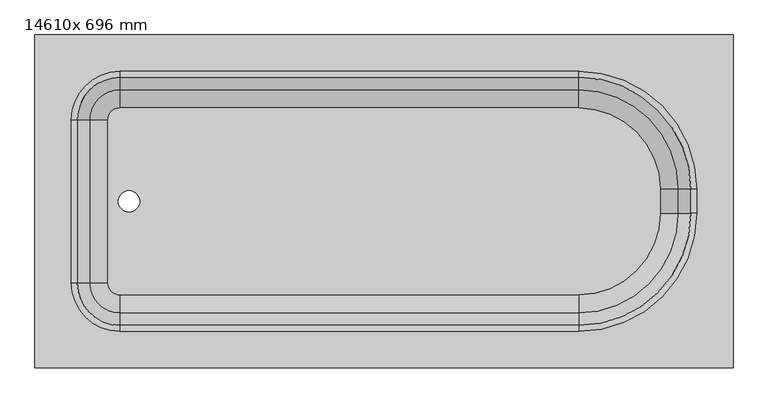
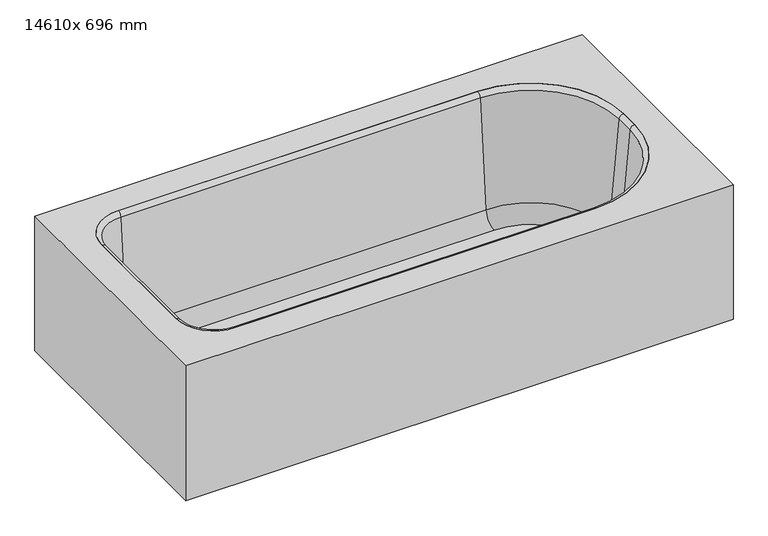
"""IFC4 building model written with IfcOpenShell, lengths in millimetres: flow terminal geometry, Bañera-Rectangular-3D : 14610x 696 mm."""

from ifc_helpers import new_model, si_unit, point, frame, frame_2d, origin, place, context, project, spatial, polyline, circle_curve, ellipse_curve, trimmed, segment, composite_curve, outline, extrude, source, transform, mapped, element, save
from ifc_brep_helpers import plane_surface, cylinder_surface, revolved_surface, advanced_brep


def flow_terminal_14610x_696_mm_010d118e(model_context):
    return source(origin(), model_context, "Body", "SolidModel", [
        advanced_brep(
        [(350.3970313, 746.6, 380.0), (-1110.6029687, 746.6, 380.0), (-1110.6029687, 50.0, 380.0), (350.3970313, 50.0, 380.0), (-932.8029687, 670.4, 380.0), (27.4970313, 670.4, 380.0), (274.1970313, 423.7, 380.0), (274.1970313, 372.9, 380.0), (27.4970313, 126.2, 380.0), (-932.8029687, 126.2, 380.0), (-1034.4029687, 227.8, 380.0), (-1034.4029687, 568.8, 380.0), (331.3470313, 727.55, 360.95), (331.3470313, 69.05, 360.95), (-1091.5529687, 69.05, 360.95), (-1091.5529687, 727.55, 360.95), (-932.8029687, 670.4, 360.95), (-1034.4029687, 568.8, 360.95), (-1034.4029687, 227.8, 360.95), (-932.8029687, 126.2, 360.95), (27.4970313, 126.2, 360.95), (274.1970313, 372.9, 360.95), (274.1970313, 423.7, 360.95), (27.4970313, 670.4, 360.95), (350.3970313, 746.6, 0.0), (-1110.6029687, 746.6, 0.0), (-1110.6029687, 50.0, 0.0), (350.3970313, 50.0, 0.0), (331.3470313, 727.55, 0.0), (-1091.5529687, 727.55, 0.0), (-1091.5529687, 69.05, 0.0), (331.3470313, 69.05, 0.0)],
        [
            (0, 1),
            (1, 2),
            (2, 3),
            (3, 0),
            (4, 5),
            (5, 6, circle_curve(frame((27.4970313, 423.7, 380.0), z_axis=(0.0, 0.0, -1.0), x_axis=(0.0, 1.0, 0.0)), 246.7)),
            (6, 7),
            (7, 8, circle_curve(frame((27.4970313, 372.9, 380.0), z_axis=(0.0, 0.0, -1.0), x_axis=(0.0, 1.0, 0.0)), 246.7)),
            (8, 9),
            (9, 10, circle_curve(frame((-932.8029687, 227.8, 380.0), z_axis=(0.0, 0.0, -1.0), x_axis=(0.0, 1.0, 0.0)), 101.6)),
            (10, 11),
            (11, 4, circle_curve(frame((-932.8029687, 568.8, 380.0), z_axis=(0.0, 0.0, -1.0), x_axis=(0.0, 1.0, 0.0)), 101.6)),
            (12, 13),
            (13, 14),
            (14, 15),
            (15, 12),
            (16, 17, circle_curve(frame((-932.8029687, 568.8, 360.95), z_axis=(0.0, 0.0, 1.0), x_axis=(0.0, 1.0, 0.0)), 101.6)),
            (17, 18),
            (18, 19, circle_curve(frame((-932.8029687, 227.8, 360.95), z_axis=(0.0, 0.0, 1.0), x_axis=(0.0, 1.0, 0.0)), 101.6)),
            (19, 20),
            (20, 21, circle_curve(frame((27.4970313, 372.9, 360.95), z_axis=(0.0, 0.0, 1.0), x_axis=(0.0, 1.0, 0.0)), 246.7)),
            (21, 22),
            (22, 23, circle_curve(frame((27.4970313, 423.7, 360.95), z_axis=(0.0, 0.0, 1.0), x_axis=(0.0, 1.0, 0.0)), 246.7)),
            (23, 16),
            (0, 24),
            (24, 25),
            (25, 1),
            (25, 26),
            (26, 2),
            (26, 27),
            (27, 3),
            (27, 24),
            (4, 16),
            (23, 5),
            (22, 6),
            (21, 7),
            (20, 8),
            (19, 9),
            (18, 10),
            (17, 11),
            (28, 29),
            (29, 30),
            (30, 31),
            (31, 28),
            (31, 13),
            (12, 28),
            (30, 14),
            (29, 15),
        ],
        [
            plane_surface(frame((-1110.6029687, 746.6, 380.0), z_axis=(0.0, 0.0, 1.0), x_axis=(-1.0, 0.0, 0.0))),
            plane_surface(frame((-1110.6029687, 746.6, 360.95), z_axis=(0.0, 0.0, -1.0), x_axis=(1.0, 0.0, 0.0))),
            plane_surface(frame((350.3970313, 746.6, 380.0), z_axis=(0.0, 1.0, 0.0), x_axis=(0.0, 0.0, -1.0))),
            plane_surface(frame((-1110.6029687, 746.6, 380.0), z_axis=(-1.0, 0.0, 0.0), x_axis=(0.0, 0.0, -1.0))),
            plane_surface(frame((-1110.6029687, 50.0, 380.0), z_axis=(0.0, -1.0, 0.0), x_axis=(0.0, 0.0, -1.0))),
            plane_surface(frame((350.3970313, 50.0, 380.0), z_axis=(1.0, 0.0, 0.0), x_axis=(0.0, 0.0, -1.0))),
            plane_surface(frame((-932.8029687, 670.4, 380.0), z_axis=(0.0, -1.0, 0.0), x_axis=(0.0, 0.0, -1.0))),
            revolved_surface(polyline([(27.4970313, 670.4, 360.95), (27.4970313, 670.4, 380.0)]), (27.4970313, 423.7, 380.0), (0.0, 0.0, -1.0)),
            plane_surface(frame((274.1970313, 423.7, 380.0), z_axis=(-1.0, 0.0, 0.0), x_axis=(0.0, 0.0, -1.0))),
            revolved_surface(polyline([(27.4970313, 619.5999999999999, 360.95), (27.4970313, 619.5999999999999, 380.0)]), (27.4970313, 372.9, 380.0), (0.0, 0.0, -1.0)),
            plane_surface(frame((27.4970313, 126.2, 380.0), z_axis=(0.0, 1.0, 0.0), x_axis=(0.0, 0.0, -1.0))),
            revolved_surface(polyline([(-932.8029687, 329.4, 360.95), (-932.8029687, 329.4, 380.0)]), (-932.8029687, 227.8, 380.0), (0.0, 0.0, -1.0)),
            plane_surface(frame((-1034.4029687, 227.8, 380.0), z_axis=(1.0, 0.0, 0.0), x_axis=(0.0, 0.0, -1.0))),
            revolved_surface(polyline([(-932.8029687, 670.4, 360.95), (-932.8029687, 670.4, 380.0)]), (-932.8029687, 568.8, 380.0), (0.0, 0.0, -1.0)),
            plane_surface(frame((-1110.6029687, 746.6, 0.0), z_axis=(0.0, 0.0, -1.0), x_axis=(1.0, 0.0, 0.0))),
            plane_surface(frame((331.3470313, 727.55, 360.95), z_axis=(-1.0, 0.0, 0.0), x_axis=(0.0, 0.0, -1.0))),
            plane_surface(frame((331.3470313, 69.05, 360.95), z_axis=(0.0, 1.0, 0.0), x_axis=(0.0, 0.0, -1.0))),
            plane_surface(frame((-1091.5529687, 69.05, 360.95), z_axis=(1.0, 0.0, 0.0), x_axis=(0.0, 0.0, -1.0))),
            plane_surface(frame((-1091.5529687, 727.55, 360.95), z_axis=(0.0, -1.0, 0.0), x_axis=(0.0, 0.0, -1.0))),
        ],
        [
            (0, [[1, 2, 3, 4], [5, 6, 7, 8, 9, 10, 11, 12]]),
            (1, [[13, 14, 15, 16], [17, 18, 19, 20, 21, 22, 23, 24]]),
            (2, [[-1, 25, 26, 27]]),
            (3, [[-2, -27, 28, 29]]),
            (4, [[-3, -29, 30, 31]]),
            (5, [[-25, -4, -31, 32]]),
            (6, [[-5, 33, -24, 34]]),
            (7, [[-6, -34, -23, 35]]),
            (8, [[-7, -35, -22, 36]]),
            (9, [[-8, -36, -21, 37]]),
            (10, [[-9, -37, -20, 38]]),
            (11, [[-10, -38, -19, 39]]),
            (12, [[-11, -39, -18, 40]]),
            (13, [[-12, -40, -17, -33]]),
            (14, [[-32, -30, -28, -26], [41, 42, 43, 44]]),
            (15, [[-44, 45, -13, 46]]),
            (16, [[-43, 47, -14, -45]]),
            (17, [[-42, 48, -15, -47]]),
            (18, [[-41, -46, -16, -48]]),
        ],
    ),
        extrude(outline(composite_curve([segment(trimmed(circle_curve(frame_2d((27.4970313, 423.7)), 170.0964741), [point((27.4970313, 593.7964741))], [point((197.5935054, 423.7))], False, "CARTESIAN"), True, "CONTINUOUS"), segment(polyline([(197.5935054, 423.7), (197.5935054, 372.9)]), True, "CONTINUOUS"), segment(trimmed(circle_curve(frame_2d((27.4970313, 372.9)), 170.0964741), [point((197.5935054, 372.9))], [point((27.4970313, 202.8035259))], False, "CARTESIAN"), True, "CONTINUOUS"), segment(polyline([(27.4970313, 202.8035259), (-932.8029687, 202.8035259)]), True, "CONTINUOUS"), segment(trimmed(circle_curve(frame_2d((-932.8029687, 227.8)), 24.9964741), [point((-932.8029687, 202.8035259))], [point((-957.7994428, 227.8))], False, "CARTESIAN"), True, "CONTINUOUS"), segment(polyline([(-957.7994428, 227.8), (-957.7994428, 568.8)]), True, "CONTINUOUS"), segment(trimmed(circle_curve(frame_2d((-932.8029687, 568.8)), 24.9964741), [point((-957.7994428, 568.8))], [point((-932.8029687, 593.7964741))], False, "CARTESIAN"), True, "CONTINUOUS"), segment(polyline([(-932.8029687, 593.7964741), (27.4970313, 593.7964741)]), True, "CONTINUOUS")], self_intersect=False), holes=[composite_curve([segment(trimmed(circle_curve(frame_2d((-913.5971625, 398.3)), 22.225), [point((-913.5971625, 420.525))], [point((-913.5971625, 376.075))], True, "CARTESIAN"), True, "CONTINUOUS"), segment(trimmed(circle_curve(frame_2d((-913.5971625, 398.3)), 22.225), [point((-913.5971625, 376.075))], [point((-913.5971625, 420.525))], True, "CARTESIAN"), True, "CONTINUOUS")], self_intersect=False)]), frame((0.0, 0.0, 15.863573), z_axis=(0.0, 0.0, 1.0), x_axis=(1.0, 0.0, 0.0)), (0.0, 0.0, 1.0), 19.05),
        advanced_brep(
        [(-995.7544608, 568.8, 69.6929392), (-932.8029687, 631.7514921, 69.6929392), (-932.8029687, 657.9220035, 368.8232535), (-1021.9249722, 568.8, 368.8232535), (-957.7994428, 568.8, 34.913573), (-932.8029687, 593.7964741, 34.913573), (-957.7994428, 568.8, 15.863573), (-932.8029687, 593.7964741, 15.863573), (-1034.4029687, 568.8, 15.863573), (-932.8029687, 670.4, 15.863573), (-1034.4029687, 568.8, 380.0), (-932.8029687, 670.4, 380.0), (-1021.9249722, 227.8, 368.8232535), (-995.7544608, 227.8, 69.6929392), (-957.7994428, 227.8, 34.913573), (-957.7994428, 227.8, 15.863573), (-1034.4029687, 227.8, 15.863573), (-1034.4029687, 227.8, 380.0), (-932.8029687, 164.8485079, 69.6929392), (-932.8029687, 138.6779965, 368.8232535), (-932.8029687, 202.8035259, 34.913573), (-932.8029687, 202.8035259, 15.863573), (-932.8029687, 126.2, 15.863573), (-932.8029687, 126.2, 380.0), (27.4970313, 138.6779965, 368.8232535), (27.4970313, 164.8485079, 69.6929392), (27.4970313, 202.8035259, 34.913573), (27.4970313, 202.8035259, 15.863573), (27.4970313, 126.2, 15.863573), (27.4970313, 126.2, 380.0), (235.5485234, 372.9, 69.6929392), (261.7190348, 372.9, 368.8232535), (197.5935054, 372.9, 34.913573), (197.5935054, 372.9, 15.863573), (274.1970313, 372.9, 15.863573), (274.1970313, 372.9, 380.0), (261.7190348, 423.7, 368.8232535), (235.5485234, 423.7, 69.6929392), (197.5935054, 423.7, 34.913573), (197.5935054, 423.7, 15.863573), (274.1970313, 423.7, 15.863573), (274.1970313, 423.7, 380.0), (27.4970313, 631.7514921, 69.6929392), (27.4970313, 657.9220035, 368.8232535), (27.4970313, 593.7964741, 34.913573), (27.4970313, 593.7964741, 15.863573), (27.4970313, 670.4, 15.863573), (27.4970313, 670.4, 380.0)],
        [
            (0, 1, circle_curve(frame((-932.8029687, 568.8, 69.6929392), z_axis=(0.0, 0.0, -1.0), x_axis=(0.0, 1.0, 0.0)), 62.9514921)),
            (1, 2),
            (2, 3, circle_curve(frame((-932.8029687, 568.8, 368.8232535), z_axis=(0.0, 0.0, 1.0), x_axis=(0.0, 1.0, 0.0)), 89.1220035)),
            (3, 0),
            (4, 5, circle_curve(frame((-932.8029687, 568.8, 34.913573), z_axis=(0.0, 0.0, -1.0), x_axis=(0.0, 1.0, 0.0)), 24.9964741)),
            (5, 1, circle_curve(frame((-932.8029687, 593.7964741, 73.013573), z_axis=(1.0, 0.0, 0.0), x_axis=(0.0, -1.0, 0.0)), 38.1)),
            (0, 4, circle_curve(frame((-957.7994428, 568.8, 73.013573), z_axis=(0.0, -1.0, 0.0), x_axis=(1.0, 0.0, 0.0)), 38.1)),
            (6, 7, circle_curve(frame((-932.8029687, 568.8, 15.863573), z_axis=(0.0, 0.0, -1.0), x_axis=(0.0, 1.0, 0.0)), 24.9964741)),
            (7, 5),
            (4, 6),
            (8, 9, circle_curve(frame((-932.8029687, 568.8, 15.863573), z_axis=(0.0, 0.0, -1.0), x_axis=(0.0, 1.0, 0.0)), 101.6)),
            (9, 7),
            (6, 8),
            (10, 11, circle_curve(frame((-932.8029687, 568.8, 380.0), z_axis=(0.0, 0.0, -1.0), x_axis=(0.0, 1.0, 0.0)), 101.6)),
            (11, 9),
            (8, 10),
            (2, 11, circle_curve(frame((-932.8029687, 670.4, 367.4462547), z_axis=(-1.0, 0.0, 0.0), x_axis=(0.0, -1.0, 0.0)), 12.5537453)),
            (10, 3, circle_curve(frame((-1034.4029687, 568.8, 367.4462547), z_axis=(0.0, 1.0, 0.0), x_axis=(1.0, 0.0, 0.0)), 12.5537453)),
            (3, 12),
            (12, 13),
            (13, 0),
            (13, 14, circle_curve(frame((-957.7994428, 227.8, 73.013573), z_axis=(0.0, -1.0, 0.0), x_axis=(1.0, 0.0, 0.0)), 38.1)),
            (14, 4),
            (14, 15),
            (15, 6),
            (15, 16),
            (16, 8),
            (16, 17),
            (17, 10),
            (17, 12, circle_curve(frame((-1034.4029687, 227.8, 367.4462547), z_axis=(0.0, 1.0, 0.0), x_axis=(1.0, 0.0, 0.0)), 12.5537453)),
            (18, 13, circle_curve(frame((-932.8029687, 227.8, 69.6929392), z_axis=(0.0, 0.0, -1.0), x_axis=(-1.0, 0.0, 0.0)), 62.9514921)),
            (12, 19, circle_curve(frame((-932.8029687, 227.8, 368.8232535), z_axis=(0.0, 0.0, 1.0), x_axis=(-1.0, 0.0, 0.0)), 89.1220035)),
            (19, 18),
            (20, 14, circle_curve(frame((-932.8029687, 227.8, 34.913573), z_axis=(0.0, 0.0, -1.0), x_axis=(-1.0, 0.0, 0.0)), 24.9964741)),
            (18, 20, circle_curve(frame((-932.8029687, 202.8035259, 73.013573), z_axis=(1.0, 0.0, 0.0), x_axis=(0.0, 1.0, 0.0)), 38.1)),
            (21, 15, circle_curve(frame((-932.8029687, 227.8, 15.863573), z_axis=(0.0, 0.0, -1.0), x_axis=(-1.0, 0.0, 0.0)), 24.9964741)),
            (20, 21),
            (22, 16, circle_curve(frame((-932.8029687, 227.8, 15.863573), z_axis=(0.0, 0.0, -1.0), x_axis=(-1.0, 0.0, 0.0)), 101.6)),
            (21, 22),
            (23, 17, circle_curve(frame((-932.8029687, 227.8, 380.0), z_axis=(0.0, 0.0, -1.0), x_axis=(-1.0, 0.0, 0.0)), 101.6)),
            (22, 23),
            (23, 19, circle_curve(frame((-932.8029687, 126.2, 367.4462547), z_axis=(-1.0, 0.0, 0.0), x_axis=(0.0, 1.0, 0.0)), 12.5537453)),
            (19, 24),
            (24, 25),
            (25, 18),
            (25, 26, circle_curve(frame((27.4970313, 202.8035259, 73.013573), z_axis=(1.0, 0.0, 0.0), x_axis=(0.0, 1.0, 0.0)), 38.1)),
            (26, 20),
            (26, 27),
            (27, 21),
            (27, 28),
            (28, 22),
            (28, 29),
            (29, 23),
            (29, 24, circle_curve(frame((27.4970313, 126.2, 367.4462547), z_axis=(-1.0, 0.0, 0.0), x_axis=(0.0, 1.0, 0.0)), 12.5537453)),
            (30, 25, circle_curve(frame((27.4970313, 372.9, 69.6929392), z_axis=(0.0, 0.0, -1.0), x_axis=(0.0, -1.0, 0.0)), 208.0514921)),
            (24, 31, circle_curve(frame((27.4970313, 372.9, 368.8232535), z_axis=(0.0, 0.0, 1.0), x_axis=(0.0, -1.0, 0.0)), 234.2220035)),
            (31, 30),
            (32, 26, circle_curve(frame((27.4970313, 372.9, 34.913573), z_axis=(0.0, 0.0, -1.0), x_axis=(0.0, -1.0, 0.0)), 170.0964741)),
            (30, 32, circle_curve(frame((197.5935054, 372.9, 73.013573), z_axis=(0.0, 1.0, 0.0), x_axis=(-1.0, 0.0, 0.0)), 38.1)),
            (33, 27, circle_curve(frame((27.4970313, 372.9, 15.863573), z_axis=(0.0, 0.0, -1.0), x_axis=(0.0, -1.0, 0.0)), 170.0964741)),
            (32, 33),
            (34, 28, circle_curve(frame((27.4970313, 372.9, 15.863573), z_axis=(0.0, 0.0, -1.0), x_axis=(0.0, -1.0, 0.0)), 246.7)),
            (33, 34),
            (35, 29, circle_curve(frame((27.4970313, 372.9, 380.0), z_axis=(0.0, 0.0, -1.0), x_axis=(0.0, -1.0, 0.0)), 246.7)),
            (34, 35),
            (35, 31, circle_curve(frame((274.1970313, 372.9, 367.4462547), z_axis=(0.0, -1.0, 0.0), x_axis=(-1.0, 0.0, 0.0)), 12.5537453)),
            (31, 36),
            (36, 37),
            (37, 30),
            (37, 38, circle_curve(frame((197.5935054, 423.7, 73.013573), z_axis=(0.0, 1.0, 0.0), x_axis=(-1.0, 0.0, 0.0)), 38.1)),
            (38, 32),
            (38, 39),
            (39, 33),
            (39, 40),
            (40, 34),
            (40, 41),
            (41, 35),
            (41, 36, circle_curve(frame((274.1970313, 423.7, 367.4462547), z_axis=(0.0, -1.0, 0.0), x_axis=(-1.0, 0.0, 0.0)), 12.5537453)),
            (42, 37, circle_curve(frame((27.4970313, 423.7, 69.6929392), z_axis=(0.0, 0.0, -1.0), x_axis=(1.0, 0.0, 0.0)), 208.0514921)),
            (36, 43, circle_curve(frame((27.4970313, 423.7, 368.8232535), z_axis=(0.0, 0.0, 1.0), x_axis=(1.0, 0.0, 0.0)), 234.2220035)),
            (43, 42),
            (44, 38, circle_curve(frame((27.4970313, 423.7, 34.913573), z_axis=(0.0, 0.0, -1.0), x_axis=(1.0, 0.0, 0.0)), 170.0964741)),
            (42, 44, circle_curve(frame((27.4970313, 593.7964741, 73.013573), z_axis=(-1.0, 0.0, 0.0), x_axis=(0.0, -1.0, 0.0)), 38.1)),
            (45, 39, circle_curve(frame((27.4970313, 423.7, 15.863573), z_axis=(0.0, 0.0, -1.0), x_axis=(1.0, 0.0, 0.0)), 170.0964741)),
            (44, 45),
            (46, 40, circle_curve(frame((27.4970313, 423.7, 15.863573), z_axis=(0.0, 0.0, -1.0), x_axis=(1.0, 0.0, 0.0)), 246.7)),
            (45, 46),
            (47, 41, circle_curve(frame((27.4970313, 423.7, 380.0), z_axis=(0.0, 0.0, -1.0), x_axis=(1.0, 0.0, 0.0)), 246.7)),
            (46, 47),
            (47, 43, circle_curve(frame((27.4970313, 670.4, 367.4462547), z_axis=(1.0, 0.0, 0.0), x_axis=(0.0, -1.0, 0.0)), 12.5537453)),
            (43, 2),
            (1, 42),
            (5, 44),
            (7, 45),
            (9, 46),
            (11, 47),
        ],
        [
            revolved_surface(polyline([(-932.8029687, 657.9220035, 368.8232535), (-932.8029687, 631.7514921, 69.6929392)]), (-932.8029687, 568.8, 380.0), (0.0, 0.0, 1.0)),
            revolved_surface(trimmed(ellipse_curve(frame((-932.8029687, 593.7964741, 73.013573), z_axis=(-1.0, 0.0, 0.0), x_axis=(0.0, -1.0, 0.0)), 38.1, 38.1), [point((-932.8029687, 631.7514921, 69.6929392))], [point((-932.8029687, 593.7964741, 34.913573))], True, "CARTESIAN"), (-932.8029687, 568.8, 380.0), (0.0, 0.0, 1.0)),
            revolved_surface(polyline([(-932.8029687, 593.7964741, 34.913572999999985), (-932.8029687, 593.7964741, 15.863572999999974)]), (-932.8029687, 568.8, 380.0), (0.0, 0.0, 1.0)),
            plane_surface(frame((-932.8029687, 568.8, 15.863573), z_axis=(0.0, 0.0, -1.0), x_axis=(0.0, 1.0, 0.0))),
            cylinder_surface(frame((-932.8029687, 568.8, 380.0), z_axis=(0.0, 0.0, 1.0), x_axis=(0.0, 1.0, 0.0)), 101.6),
            revolved_surface(trimmed(ellipse_curve(frame((-932.8029687, 670.4, 367.4462547), z_axis=(1.0, 0.0, 0.0), x_axis=(0.0, -1.0, 0.0)), 12.5537453, 12.5537453), [point((-932.8029687, 670.4, 380.0))], [point((-932.8029687, 657.9220035, 368.8232535))], True, "CARTESIAN"), (-932.8029687, 568.8, 380.0), (0.0, 0.0, 1.0)),
            plane_surface(frame((-1021.9249722, 568.8, 368.8232535), z_axis=(0.9961946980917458, 0.0, 0.08715574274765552), x_axis=(0.0, -1.0, 0.0))),
            revolved_surface(polyline([(-919.6994427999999, 227.8, 73.013573), (-919.6994427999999, 568.8, 73.013573)]), (-957.7994428, 568.8, 73.013573), (0.0, -1.0, 0.0)),
            plane_surface(frame((-957.7994428, 568.8, 34.913573), z_axis=(1.0, 0.0, 0.0), x_axis=(0.0, -1.0, 0.0))),
            plane_surface(frame((-957.7994428, 568.8, 15.863573), z_axis=(0.0, 0.0, -1.0), x_axis=(0.0, -1.0, 0.0))),
            plane_surface(frame((-1034.4029687, 568.8, 15.863573), z_axis=(-1.0, 0.0, 0.0), x_axis=(0.0, -1.0, 0.0))),
            cylinder_surface(frame((-1034.4029687, 568.8, 367.4462547), z_axis=(0.0, 1.0, 0.0), x_axis=(1.0, 0.0, 0.0)), 12.5537453),
            revolved_surface(polyline([(-1021.9249722, 227.8, 368.8232535), (-995.7544608, 227.8, 69.6929392)]), (-932.8029687, 227.8, 380.0), (0.0, 0.0, 1.0)),
            revolved_surface(trimmed(ellipse_curve(frame((-957.7994428, 227.8, 73.013573), z_axis=(0.0, -1.0, 0.0), x_axis=(1.0, 0.0, 0.0)), 38.1, 38.1), [point((-995.7544608, 227.8, 69.6929392))], [point((-957.7994428, 227.8, 34.913573))], True, "CARTESIAN"), (-932.8029687, 227.8, 380.0), (0.0, 0.0, 1.0)),
            revolved_surface(polyline([(-957.7994428, 227.8, 34.913572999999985), (-957.7994428, 227.8, 15.863572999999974)]), (-932.8029687, 227.8, 380.0), (0.0, 0.0, 1.0)),
            plane_surface(frame((-932.8029687, 227.8, 15.863573), z_axis=(0.0, 0.0, -1.0), x_axis=(-1.0, 0.0, 0.0))),
            cylinder_surface(frame((-932.8029687, 227.8, 380.0), z_axis=(0.0, 0.0, 1.0), x_axis=(-1.0, 0.0, 0.0)), 101.6),
            revolved_surface(trimmed(ellipse_curve(frame((-1034.4029687, 227.8, 367.4462547), z_axis=(0.0, 1.0, 0.0), x_axis=(1.0, 0.0, 0.0)), 12.5537453, 12.5537453), [point((-1034.4029687, 227.8, 380.0))], [point((-1021.9249722, 227.8, 368.8232535))], True, "CARTESIAN"), (-932.8029687, 227.8, 380.0), (0.0, 0.0, 1.0)),
            plane_surface(frame((-932.8029687, 138.6779965, 368.8232535), z_axis=(0.0, 0.9961946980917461, 0.08715574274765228), x_axis=(1.0, 0.0, 0.0))),
            revolved_surface(polyline([(27.497031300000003, 240.9035259, 73.013573), (-932.8029687, 240.9035259, 73.013573)]), (-932.8029687, 202.8035259, 73.013573), (1.0, 0.0, 0.0)),
            plane_surface(frame((-932.8029687, 202.8035259, 34.913573), z_axis=(0.0, 1.0, 0.0), x_axis=(1.0, 0.0, 0.0))),
            plane_surface(frame((-932.8029687, 202.8035259, 15.863573), z_axis=(0.0, 0.0, -1.0), x_axis=(1.0, 0.0, 0.0))),
            plane_surface(frame((-932.8029687, 126.2, 15.863573), z_axis=(0.0, -1.0, 0.0), x_axis=(1.0, 0.0, 0.0))),
            cylinder_surface(frame((-932.8029687, 126.2, 367.4462547), z_axis=(-1.0, 0.0, 0.0), x_axis=(0.0, 1.0, 0.0)), 12.5537453),
            revolved_surface(polyline([(27.4970313, 138.6779965, 368.8232535), (27.4970313, 164.8485079, 69.6929392)]), (27.4970313, 372.9, 380.0), (0.0, 0.0, 1.0)),
            revolved_surface(trimmed(ellipse_curve(frame((27.4970313, 202.8035259, 73.013573), z_axis=(1.0, 0.0, 0.0), x_axis=(0.0, 1.0, 0.0)), 38.1, 38.1), [point((27.4970313, 164.8485079, 69.6929392))], [point((27.4970313, 202.8035259, 34.913573))], True, "CARTESIAN"), (27.4970313, 372.9, 380.0), (0.0, 0.0, 1.0)),
            revolved_surface(polyline([(27.4970313, 202.80352589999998, 34.913572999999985), (27.4970313, 202.80352589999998, 15.863572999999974)]), (27.4970313, 372.9, 380.0), (0.0, 0.0, 1.0)),
            plane_surface(frame((27.4970313, 372.9, 15.863573), z_axis=(0.0, 0.0, -1.0), x_axis=(0.0, -1.0, 0.0))),
            cylinder_surface(frame((27.4970313, 372.9, 380.0), z_axis=(0.0, 0.0, 1.0), x_axis=(0.0, -1.0, 0.0)), 246.7),
            revolved_surface(trimmed(ellipse_curve(frame((27.4970313, 126.2, 367.4462547), z_axis=(-1.0, 0.0, 0.0), x_axis=(0.0, 1.0, 0.0)), 12.5537453, 12.5537453), [point((27.4970313, 126.2, 380.0))], [point((27.4970313, 138.6779965, 368.8232535))], True, "CARTESIAN"), (27.4970313, 372.9, 380.0), (0.0, 0.0, 1.0)),
            plane_surface(frame((261.7190348, 372.9, 368.8232535), z_axis=(-0.9961946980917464, 0.0, 0.08715574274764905), x_axis=(0.0, 1.0, 0.0))),
            revolved_surface(polyline([(159.4935054, 423.7, 73.013573), (159.4935054, 372.9, 73.013573)]), (197.5935054, 372.9, 73.013573), (0.0, 1.0, 0.0)),
            plane_surface(frame((197.5935054, 372.9, 34.913573), z_axis=(-1.0, 0.0, 0.0), x_axis=(0.0, 1.0, 0.0))),
            plane_surface(frame((197.5935054, 372.9, 15.863573), z_axis=(0.0, 0.0, -1.0), x_axis=(0.0, 1.0, 0.0))),
            plane_surface(frame((274.1970313, 372.9, 15.863573), z_axis=(1.0, 0.0, 0.0), x_axis=(0.0, 1.0, 0.0))),
            cylinder_surface(frame((274.1970313, 372.9, 367.4462547), z_axis=(0.0, -1.0, 0.0), x_axis=(-1.0, 0.0, 0.0)), 12.5537453),
            revolved_surface(polyline([(261.7190348, 423.7, 368.8232535), (235.5485234, 423.7, 69.6929392)]), (27.4970313, 423.7, 380.0), (0.0, 0.0, 1.0)),
            revolved_surface(trimmed(ellipse_curve(frame((197.5935054, 423.7, 73.013573), z_axis=(0.0, 1.0, 0.0), x_axis=(-1.0, 0.0, 0.0)), 38.1, 38.1), [point((235.5485234, 423.7, 69.6929392))], [point((197.5935054, 423.7, 34.913573))], True, "CARTESIAN"), (27.4970313, 423.7, 380.0), (0.0, 0.0, 1.0)),
            revolved_surface(polyline([(197.5935054, 423.7, 34.913572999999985), (197.5935054, 423.7, 15.863572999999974)]), (27.4970313, 423.7, 380.0), (0.0, 0.0, 1.0)),
            plane_surface(frame((27.4970313, 423.7, 15.863573), z_axis=(0.0, 0.0, -1.0), x_axis=(1.0, 0.0, 0.0))),
            cylinder_surface(frame((27.4970313, 423.7, 380.0), z_axis=(0.0, 0.0, 1.0), x_axis=(1.0, 0.0, 0.0)), 246.7),
            revolved_surface(trimmed(ellipse_curve(frame((274.1970313, 423.7, 367.4462547), z_axis=(0.0, -1.0, 0.0), x_axis=(-1.0, 0.0, 0.0)), 12.5537453, 12.5537453), [point((274.1970313, 423.7, 380.0))], [point((261.7190348, 423.7, 368.8232535))], True, "CARTESIAN"), (27.4970313, 423.7, 380.0), (0.0, 0.0, 1.0)),
            plane_surface(frame((27.4970313, 657.9220035, 368.8232535), z_axis=(0.0, -0.9961946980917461, 0.08715574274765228), x_axis=(-1.0, 0.0, 0.0))),
            revolved_surface(polyline([(-932.8029687, 555.6964740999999, 73.013573), (27.4970313, 555.6964740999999, 73.013573)]), (27.4970313, 593.7964741, 73.013573), (-1.0, 0.0, 0.0)),
            plane_surface(frame((27.4970313, 593.7964741, 34.913573), z_axis=(0.0, -1.0, 0.0), x_axis=(-1.0, 0.0, 0.0))),
            plane_surface(frame((27.4970313, 593.7964741, 15.863573), z_axis=(0.0, 0.0, -1.0), x_axis=(-1.0, 0.0, 0.0))),
            plane_surface(frame((27.4970313, 670.4, 15.863573), z_axis=(0.0, 1.0, 0.0), x_axis=(-1.0, 0.0, 0.0))),
            cylinder_surface(frame((27.4970313, 670.4, 367.4462547), z_axis=(1.0, 0.0, 0.0), x_axis=(0.0, -1.0, 0.0)), 12.5537453),
        ],
        [
            (0, [[1, 2, 3, 4]]),
            (1, [[5, 6, -1, 7]]),
            (2, [[8, 9, -5, 10]]),
            (3, [[11, 12, -8, 13]]),
            (4, [[14, 15, -11, 16]]),
            (5, [[-3, 17, -14, 18]]),
            (6, [[-4, 19, 20, 21]]),
            (7, [[-7, -21, 22, 23]]),
            (8, [[-10, -23, 24, 25]]),
            (9, [[-13, -25, 26, 27]]),
            (10, [[-16, -27, 28, 29]]),
            (11, [[-18, -29, 30, -19]]),
            (12, [[31, -20, 32, 33]]),
            (13, [[34, -22, -31, 35]]),
            (14, [[36, -24, -34, 37]]),
            (15, [[38, -26, -36, 39]]),
            (16, [[40, -28, -38, 41]]),
            (17, [[-32, -30, -40, 42]]),
            (18, [[-33, 43, 44, 45]]),
            (19, [[-35, -45, 46, 47]]),
            (20, [[-37, -47, 48, 49]]),
            (21, [[-39, -49, 50, 51]]),
            (22, [[-41, -51, 52, 53]]),
            (23, [[-42, -53, 54, -43]]),
            (24, [[55, -44, 56, 57]]),
            (25, [[58, -46, -55, 59]]),
            (26, [[60, -48, -58, 61]]),
            (27, [[62, -50, -60, 63]]),
            (28, [[64, -52, -62, 65]]),
            (29, [[-56, -54, -64, 66]]),
            (30, [[-57, 67, 68, 69]]),
            (31, [[-59, -69, 70, 71]]),
            (32, [[-61, -71, 72, 73]]),
            (33, [[-63, -73, 74, 75]]),
            (34, [[-65, -75, 76, 77]]),
            (35, [[-66, -77, 78, -67]]),
            (36, [[79, -68, 80, 81]]),
            (37, [[82, -70, -79, 83]]),
            (38, [[84, -72, -82, 85]]),
            (39, [[86, -74, -84, 87]]),
            (40, [[88, -76, -86, 89]]),
            (41, [[-80, -78, -88, 90]]),
            (42, [[-81, 91, -2, 92]]),
            (43, [[-83, -92, -6, 93]]),
            (44, [[-85, -93, -9, 94]]),
            (45, [[-87, -94, -12, 95]]),
            (46, [[-89, -95, -15, 96]]),
            (47, [[-90, -96, -17, -91]]),
        ],
    ),
    ])


if __name__ == "__main__":
    model = new_model("IFC4")
    model_context = context("Model", 3, world=origin())
    ifc_project = project(units=[si_unit("LENGTHUNIT", "METRE", prefix="MILLI")], contexts=[model_context])
    site = spatial("IfcSite", under=ifc_project)
    building = spatial("IfcBuilding", under=site)
    placement = place(None, origin())
    flow_terminal_14610x_696_mm_shape = flow_terminal_14610x_696_mm_010d118e(model_context)
    element("IfcFlowTerminal", 1, ObjectType="Bañera-Rectangular-3D : 14610x 696 mm", at=placement, inside=building, context=model_context, shape_type="MappedRepresentation", body=[
        mapped(flow_terminal_14610x_696_mm_shape, transform((0.0, 0.0, 0.0), x_axis=(1.0, 0.0, 0.0), y_axis=(0.0, 1.0, 0.0), z_axis=(0.0, 0.0, 1.0))),
    ])
    save(model, "model.ifc")
